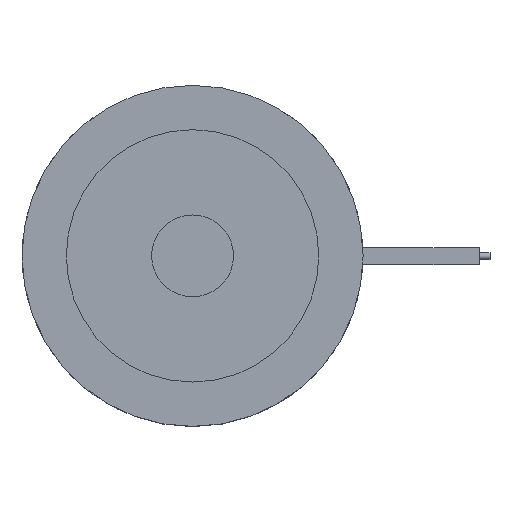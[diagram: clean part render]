
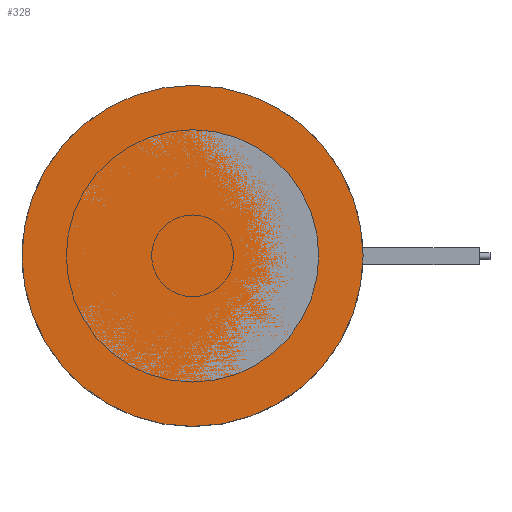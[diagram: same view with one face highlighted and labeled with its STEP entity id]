
A CAD part, top view. The second image highlights one B-rep face of the part: STEP entity #328.
In plain terms, the highlighted planar face has unit normal (0, 0, 1).
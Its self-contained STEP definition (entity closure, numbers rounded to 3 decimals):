
#230=PLANE('',#1108);
#264=FACE_OUTER_BOUND('',#493,.T.);
#328=ADVANCED_FACE('',(#264),#230,.F.);
#493=EDGE_LOOP('',(#621));
#621=ORIENTED_EDGE('',*,*,#916,.F.);
#822=VERTEX_POINT('',#1594);
#916=EDGE_CURVE('',#822,#822,#1019,.T.);
#1019=CIRCLE('',#1107,25.);
#1107=AXIS2_PLACEMENT_3D('',#1593,#1298,#1299);
#1108=AXIS2_PLACEMENT_3D('',#1595,#1300,#1301);
#1298=DIRECTION('',(0.,0.,-1.));
#1299=DIRECTION('',(-1.,0.,0.));
#1300=DIRECTION('',(0.,0.,-1.));
#1301=DIRECTION('',(-1.,0.,0.));
#1593=CARTESIAN_POINT('',(0.,0.,0.));
#1594=CARTESIAN_POINT('',(-25.,0.,0.));
#1595=CARTESIAN_POINT('',(0.,0.,0.));
